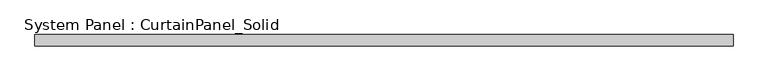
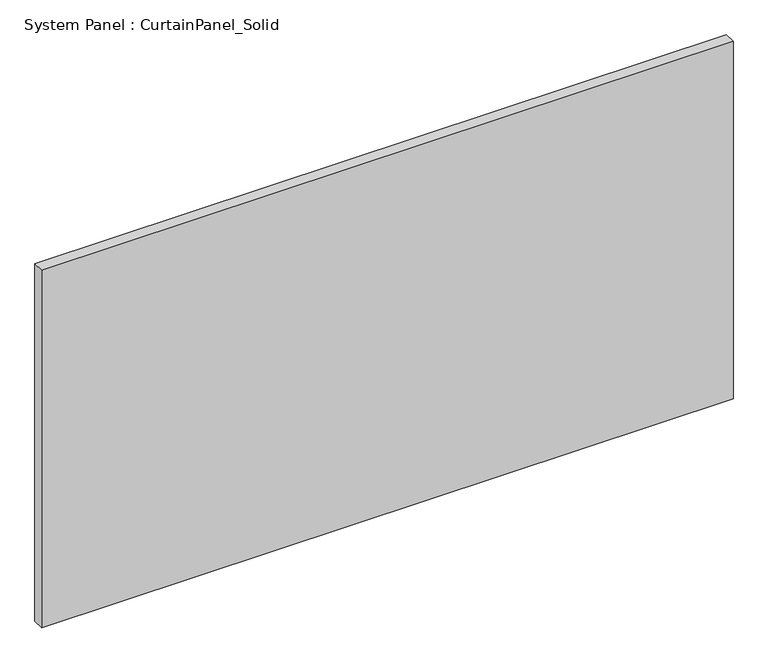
"""IFC4 building model written with IfcOpenShell, lengths in millimetres: plate geometry, System Panel : CurtainPanel_Solid."""

from ifc_helpers import new_model, si_unit, origin, origin_with_axes, place, context, project, spatial, polyline, outline, extrude, source, transform, mapped, element, save


def system_panel_curtainpanel_solid_5b00d7df(model_context):
    return source(origin(), model_context, "Body", "SweptSolid", [
        extrude(outline(polyline([(755.5555557, -12.5), (-755.5555557, -12.5), (-755.5555557, 12.5), (755.5555557, 12.5), (755.5555557, -12.5)])), origin_with_axes(), (0.0, 0.0, 1.0), 825.0),
    ])


if __name__ == "__main__":
    model = new_model("IFC4")
    model_context = context("Model", 3, world=origin())
    ifc_project = project(units=[si_unit("LENGTHUNIT", "METRE", prefix="MILLI")], contexts=[model_context])
    site = spatial("IfcSite", under=ifc_project)
    building = spatial("IfcBuilding", under=site)
    placement = place(None, origin())
    system_panel_curtainpanel_solid_shape = system_panel_curtainpanel_solid_5b00d7df(model_context)
    element("IfcPlate", 1, ObjectType="System Panel : CurtainPanel_Solid", at=placement, inside=building, context=model_context, shape_type="MappedRepresentation", body=[
        mapped(system_panel_curtainpanel_solid_shape, transform((0.0, 0.0, 0.0), x_axis=(1.0, 0.0, 0.0), y_axis=(0.0, 1.0, 0.0), z_axis=(0.0, 0.0, 1.0))),
    ])
    save(model, "model.ifc")
